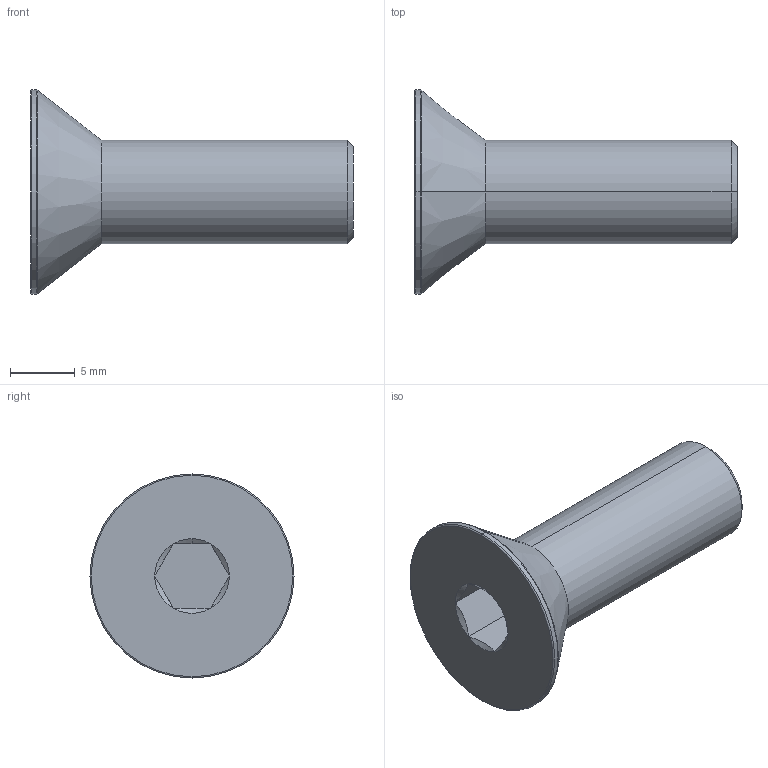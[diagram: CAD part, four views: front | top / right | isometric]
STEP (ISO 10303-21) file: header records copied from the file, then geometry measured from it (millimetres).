
FILE_DESCRIPTION (( 'STEP AP203' ), '1' );
FILE_NAME ('LGDB-304-M8x25.STEP', '2026-08-12T01:46:55', ( '' ), ( '' ), 'SwSTEP 2.0', 'SolidWorks 2020', '' );
FILE_SCHEMA (( 'CONFIG_CONTROL_DESIGN' ));
Length unit declared in the file: millimetre
Products named in the file (1): LGDB-304-M8x25
Bounding box: 25 x 15.8 x 15.8 mm (x, y, z)
Volume: 1564 mm3; surface area: 1055.6 mm2
Topology: 1 solids, 1 shells, 28 faces, 53 edges, 28 vertices
Faces by surface type: cone 11, plane 9, torus 4, cylinder 4
Entity records: 796 total; most frequent: CARTESIAN_POINT 157, DIRECTION 129, ORIENTED_EDGE 106, AXIS2_PLACEMENT_3D 54, EDGE_CURVE 53, EDGE_LOOP 29, FACE_OUTER_BOUND 28, ADVANCED_FACE 28
